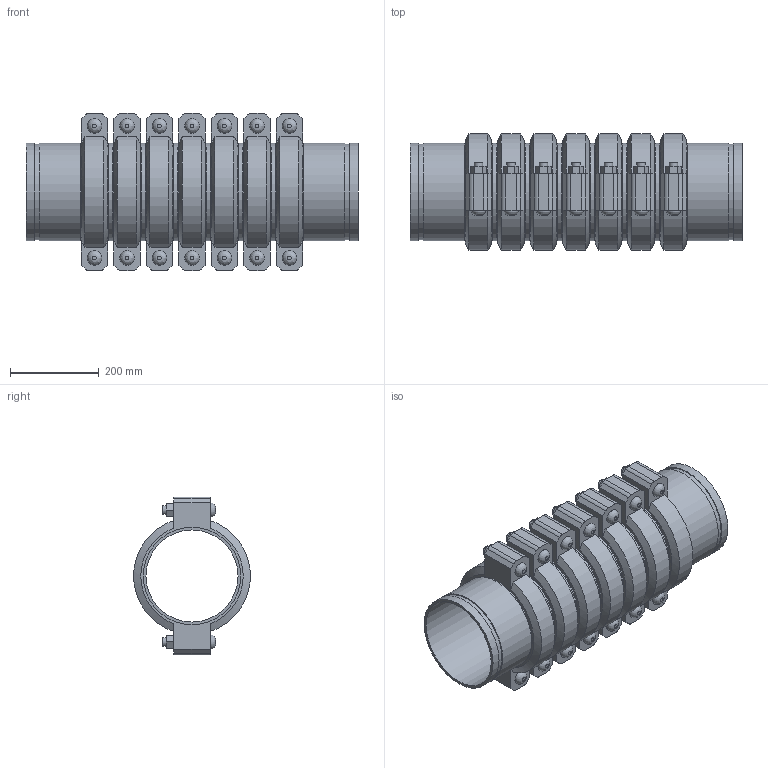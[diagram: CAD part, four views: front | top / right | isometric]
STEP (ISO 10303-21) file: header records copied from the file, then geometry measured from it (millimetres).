
FILE_DESCRIPTION(/* description */ ('VIC SS EXPANSION JOINT 7 COUPLINGS NEUTRAL STYLE 155P (OGS) (POTABLE WATER) ','CAx-IF Rec.Pracs.---Representation and Presentation of Product Manufacturing Information (PMI)---4.0---2014-10-13'),/* implementation_level */ '2;1');
FILE_NAME(/* name */ 'C:\Users\kkamble\AppData\Roaming\Autodesk\ApplicationPlugins\Victaulic.Temp\A807\Victaulic_SS_Expansion Joint_Neutral_7 Couplings_Style 155P (OGS)-Potable Water_7 Coup_Neut_8 (200).stp',/* time_stamp */ '2021-07-16T16:37:33+05:00',/* author */ ('kkamble'),/* organization */ ('Victaulic'),/* preprocessor_version */ 'ST-DEVELOPER v17.2',/* originating_system */ 'Autodesk Inventor 2019',/* authorisation */ '');
FILE_SCHEMA (('AP242_MANAGED_MODEL_BASED_3D_ENGINEERING_MIM_LF { 1 0 10303 442 1 1 4 }'));
Length unit declared in the file: inch
Products named in the file (4): 155P-08.0; Nipple-08.0; Nipple-08.0_1; 075-08.0
Assembly tree (15 placements, depth 2):
  155P-08.0
    Nipple-08.0  x2
    Nipple-08.0_1  x6
    075-08.0  x7
Bounding box: 746.25 x 261.72 x 354.84 mm (x, y, z)
Volume: 12264636.9 mm3; surface area: 2275653.1 mm2
Topology: 15 solids, 29 shells, 495 faces, 1171 edges, 822 vertices
Faces by surface type: plane 300, cylinder 153, cone 28, bspline 14
Full cylindrical faces by diameter (mm): 19.05 x28, 21.209 x14, 206.985 x8, 212.725 x7, 214.401 x16, 219.075 x38
Entity records: 2833 total; most frequent: CARTESIAN_POINT 499, DIRECTION 473, ORIENTED_EDGE 386, EDGE_CURVE 193, AXIS2_PLACEMENT_3D 190, VERTEX_POINT 138, EDGE_LOOP 107, LINE 93
